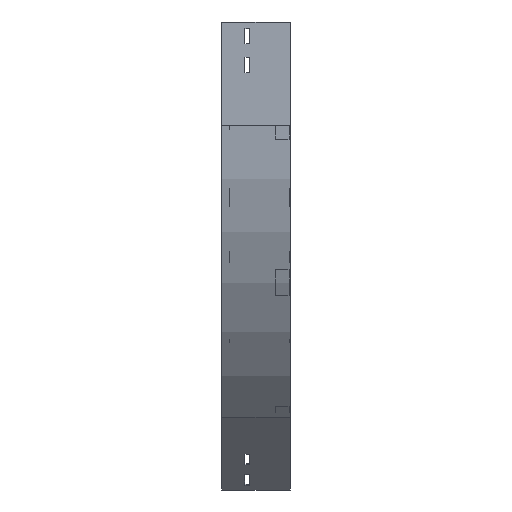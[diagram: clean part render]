
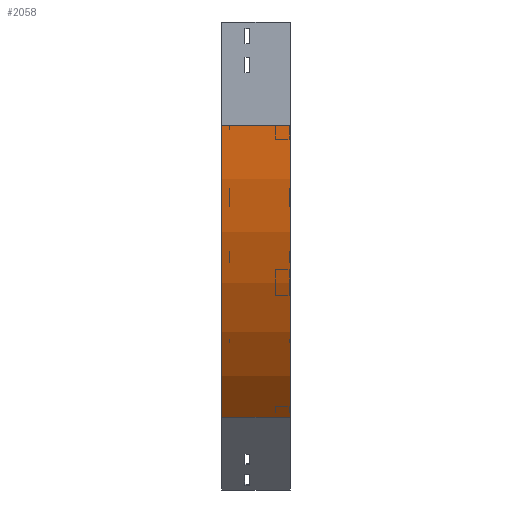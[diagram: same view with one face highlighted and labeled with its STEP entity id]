
A CAD part, left-side view. The second image highlights one B-rep face of the part: STEP entity #2058.
In plain terms, the highlighted cylindrical face has radius 600 mm (diameter 1200 mm), a partial arc.
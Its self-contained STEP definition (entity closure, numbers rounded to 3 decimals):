
#77 = AXIS2_PLACEMENT_3D ( 'NONE', #2201, #1642, #3137 ) ;
#119 = DIRECTION ( 'NONE',  ( 0., -1., 0. ) ) ;
#140 = CARTESIAN_POINT ( 'NONE',  ( 0., 100., -150. ) ) ;
#537 = CARTESIAN_POINT ( 'NONE',  ( 0., 0., -150. ) ) ;
#539 = VERTEX_POINT ( 'NONE', #3571 ) ;
#629 = FACE_OUTER_BOUND ( 'NONE', #2769, .T. ) ;
#966 = DIRECTION ( 'NONE',  ( 0., -1., 0. ) ) ;
#999 = DIRECTION ( 'NONE',  ( 0., -1., 0. ) ) ;
#1122 = CIRCLE ( 'NONE', #77, 600. ) ;
#1157 = CARTESIAN_POINT ( 'NONE',  ( 175.736, 100., -574.264 ) ) ;
#1181 = EDGE_CURVE ( 'NONE', #2128, #3379, #1122, .T. ) ;
#1433 = EDGE_CURVE ( 'NONE', #2128, #1849, #3049, .T. ) ;
#1566 = CARTESIAN_POINT ( 'NONE',  ( 600., 0., -150. ) ) ;
#1621 = AXIS2_PLACEMENT_3D ( 'NONE', #1566, #999, #3085 ) ;
#1642 = DIRECTION ( 'NONE',  ( 0., -1., 0. ) ) ;
#1782 = ORIENTED_EDGE ( 'NONE', *, *, #1181, .T. ) ;
#1849 = VERTEX_POINT ( 'NONE', #537 ) ;
#1887 = CYLINDRICAL_SURFACE ( 'NONE', #3036, 600. ) ;
#2058 = ADVANCED_FACE ( 'NONE', ( #629 ), #1887, .T. ) ;
#2099 = CARTESIAN_POINT ( 'NONE',  ( 600., 0., -150. ) ) ;
#2125 = ORIENTED_EDGE ( 'NONE', *, *, #2179, .F. ) ;
#2128 = VERTEX_POINT ( 'NONE', #140 ) ;
#2179 = EDGE_CURVE ( 'NONE', #1849, #539, #3812, .T. ) ;
#2201 = CARTESIAN_POINT ( 'NONE',  ( 600., 100., -150. ) ) ;
#2415 = LINE ( 'NONE', #3625, #3579 ) ;
#2607 = VECTOR ( 'NONE', #966, 1000. ) ;
#2769 = EDGE_LOOP ( 'NONE', ( #2125, #3533, #1782, #3079 ) ) ;
#2801 = EDGE_CURVE ( 'NONE', #3379, #539, #2415, .T. ) ;
#3036 = AXIS2_PLACEMENT_3D ( 'NONE', #2099, #119, #3072 ) ;
#3049 = LINE ( 'NONE', #3651, #2607 ) ;
#3072 = DIRECTION ( 'NONE',  ( 0., 0., -1. ) ) ;
#3079 = ORIENTED_EDGE ( 'NONE', *, *, #2801, .T. ) ;
#3085 = DIRECTION ( 'NONE',  ( -1., 0., 0. ) ) ;
#3137 = DIRECTION ( 'NONE',  ( -1., 0., 0. ) ) ;
#3313 = DIRECTION ( 'NONE',  ( 0., -1., 0. ) ) ;
#3379 = VERTEX_POINT ( 'NONE', #1157 ) ;
#3533 = ORIENTED_EDGE ( 'NONE', *, *, #1433, .F. ) ;
#3571 = CARTESIAN_POINT ( 'NONE',  ( 175.736, 0., -574.264 ) ) ;
#3579 = VECTOR ( 'NONE', #3313, 1000. ) ;
#3625 = CARTESIAN_POINT ( 'NONE',  ( 175.736, 0., -574.264 ) ) ;
#3651 = CARTESIAN_POINT ( 'NONE',  ( 0., 0., -150. ) ) ;
#3812 = CIRCLE ( 'NONE', #1621, 600. ) ;
